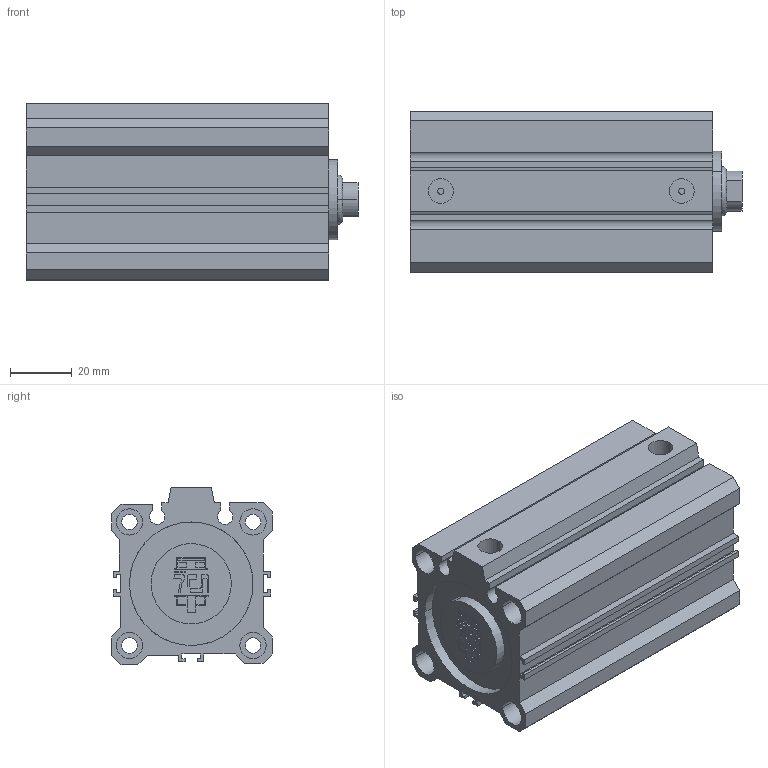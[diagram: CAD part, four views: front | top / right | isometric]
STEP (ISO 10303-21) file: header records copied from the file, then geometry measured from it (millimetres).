
FILE_DESCRIPTION(('CATIA V5 STEP Exchange'),'2;1');
FILE_NAME('D:\PDA\PDA-STP\PDA 40-16\PDA 40-16-60.stp','2016-02-02T10:46:02+00:00',('none'),('none'),'Version 5-6 Release 2012','CATIA V5 STEP AP203','none');
FILE_SCHEMA(('CONFIG_CONTROL_DESIGN'));
Length unit declared in the file: millimetre
Products named in the file (1): PDA 40-16-60-00
Assembly tree (2 placements, depth 2):
  PDA 40-16-60-00
    #58
    #6821
Bounding box: 107.5 x 52 x 57.5 mm (x, y, z)
Volume: 160485.7 mm3; surface area: 63334.4 mm2
Topology: 2 solids, 2 shells, 257 faces, 660 edges, 440 vertices
Faces by surface type: plane 181, cylinder 74, torus 2
Entity records: 7290 total; most frequent: ORIENTED_EDGE 1320, CARTESIAN_POINT 1272, DIRECTION 1004, EDGE_CURVE 660, VECTOR 500, LINE 500, VERTEX_POINT 440, AXIS2_PLACEMENT_3D 332
